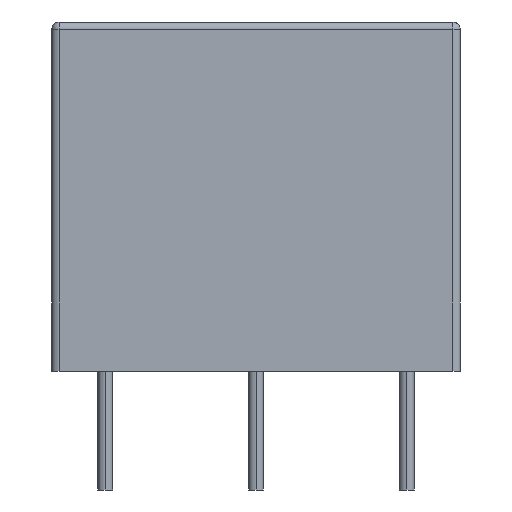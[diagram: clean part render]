
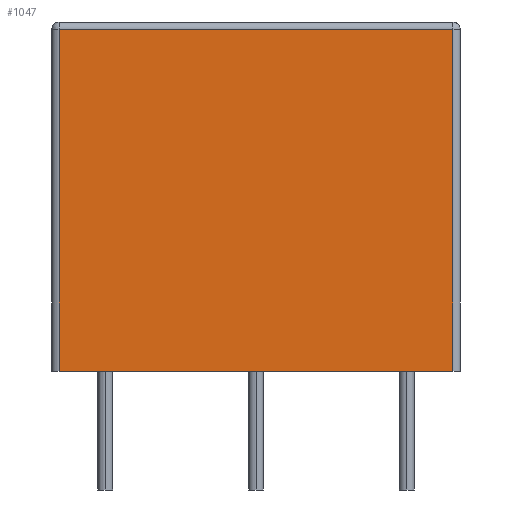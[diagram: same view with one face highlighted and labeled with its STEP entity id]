
A CAD part, left-side view. The second image highlights one B-rep face of the part: STEP entity #1047.
In plain terms, the highlighted planar face has unit normal (-1, 0, 0).
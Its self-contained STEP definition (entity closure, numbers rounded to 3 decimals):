
#59=DIRECTION('',(0.,-1.,0.));
#60=VECTOR('',#59,26.5);
#61=CARTESIAN_POINT('',(-26.25,13.25,0.));
#62=LINE('',#61,#60);
#397=DIRECTION('',(0.,0.,1.));
#398=VECTOR('',#397,23.);
#399=CARTESIAN_POINT('',(-26.25,-13.25,0.));
#400=LINE('',#399,#398);
#420=DIRECTION('',(0.,-1.,0.));
#421=VECTOR('',#420,26.5);
#422=CARTESIAN_POINT('',(-26.25,13.25,23.));
#423=LINE('',#422,#421);
#427=DIRECTION('',(0.,0.,1.));
#428=VECTOR('',#427,23.);
#429=CARTESIAN_POINT('',(-26.25,13.25,0.));
#430=LINE('',#429,#428);
#655=CARTESIAN_POINT('',(-26.25,13.25,0.));
#657=VERTEX_POINT('',#655);
#658=CARTESIAN_POINT('',(-26.25,-13.25,0.));
#659=VERTEX_POINT('',#658);
#686=CARTESIAN_POINT('',(-26.25,13.25,23.));
#687=VERTEX_POINT('',#686);
#690=CARTESIAN_POINT('',(-26.25,-13.25,23.));
#691=VERTEX_POINT('',#690);
#1036=CARTESIAN_POINT('',(-26.25,13.25,0.));
#1037=DIRECTION('',(-1.,0.,0.));
#1038=DIRECTION('',(0.,-1.,0.));
#1039=AXIS2_PLACEMENT_3D('',#1036,#1037,#1038);
#1040=PLANE('',#1039);
#1041=ORIENTED_EDGE('',*,*,#1030,.T.);
#1042=ORIENTED_EDGE('',*,*,#1006,.F.);
#1043=ORIENTED_EDGE('',*,*,#761,.F.);
#1044=ORIENTED_EDGE('',*,*,#815,.T.);
#1045=EDGE_LOOP('',(#1041,#1042,#1043,#1044));
#1046=FACE_OUTER_BOUND('',#1045,.F.);
#761=EDGE_CURVE('',#657,#659,#62,.T.);
#815=EDGE_CURVE('',#657,#687,#430,.T.);
#1006=EDGE_CURVE('',#659,#691,#400,.T.);
#1030=EDGE_CURVE('',#687,#691,#423,.T.);
#1047=ADVANCED_FACE('',(#1046),#1040,.T.);
